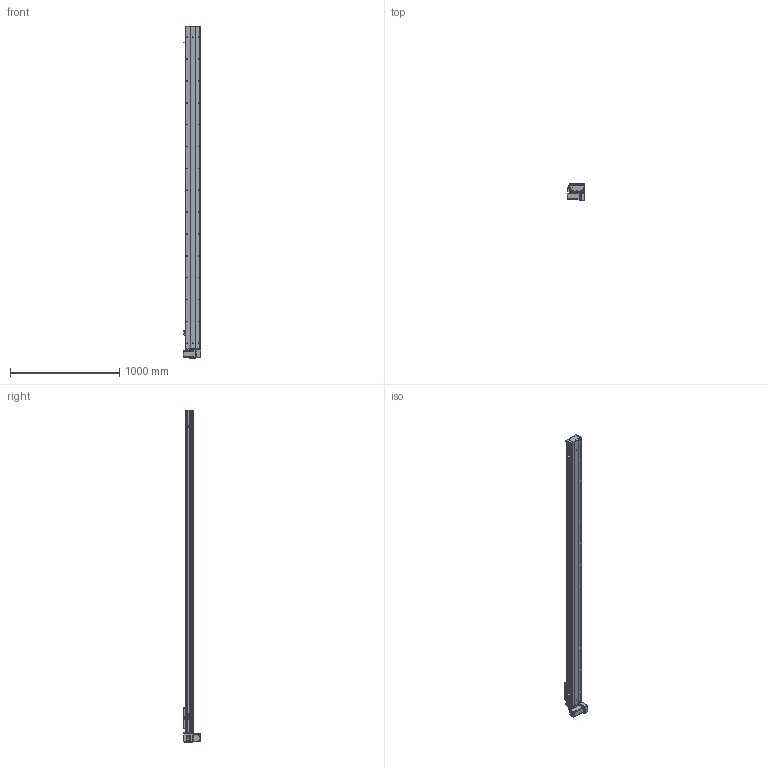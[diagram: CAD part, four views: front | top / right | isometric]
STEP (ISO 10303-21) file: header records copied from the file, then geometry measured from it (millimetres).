
FILE_DESCRIPTION (( 'STEP AP203' ), '1' );
FILE_NAME ('Y135CB-D90-S2650-BM-P400W.STEP', '2020-02-19T02:32:48', ( '微软用户' ), ( '微软中国' ), 'SwSTEP 2.0', 'SolidWorks 2017', '' );
FILE_SCHEMA (( 'CONFIG_CONTROL_DESIGN' ));
Length unit declared in the file: millimetre
Products named in the file (18): Y10B--々湍喘謫眊--666; san松下电机400不带刹车----; 00B-俋欶BM--; 5CB --掛极耜裔啣-; Y10B-耜蚾蟀諉啣----; C-詩湍揤踡え-陔; Y135CB-耜裔; Y135CB-D90-S2650-BM-P400W; 135CB--詩湍-CE; 135CB---遴掛极.-; Y100-135俋离換覜ん--; 35CB---喘謫眊楊擘啣; Y135C-陔俋离換覜結え-; 0B-埴倛裔啣; 5C--俋欶; 0B-源倛裔啣; C-雄赽釱--; 0B-萇儂楊擘啣
Assembly tree (21 placements, depth 2):
  Y135CB-D90-S2650-BM-P400W
    Y135CB-耜裔
    135CB---遴掛极.-
    35CB---喘謫眊楊擘啣
    0B-埴倛裔啣
    0B-源倛裔啣
    0B-萇儂楊擘啣
    san松下电机400不带刹车----
    5CB --掛极耜裔啣-  x2
    C-詩湍揤踡え-陔  x2
    135CB--詩湍-CE
    Y100-135俋离換覜ん--  x3
    Y135C-陔俋离換覜結え-
    5C--俋欶
    C-雄赽釱--
    Y10B--々湍喘謫眊--666
    00B-俋欶BM--
    Y10B-耜蚾蟀諉啣----
Bounding box: 157 x 163.3 x 3038 mm (x, y, z)
Volume: 8671413.2 mm3; surface area: 3436355.8 mm2
Topology: 21 solids, 21 shells, 977 faces, 2671 edges, 1770 vertices
Faces by surface type: cylinder 505, plane 456, cone 16
Entity records: 30965 total; most frequent: CARTESIAN_POINT 5164, DIRECTION 5147, ORIENTED_EDGE 4818, EDGE_CURVE 2409, AXIS2_PLACEMENT_3D 1889, VERTEX_POINT 1598, LINE 1369, VECTOR 1369
